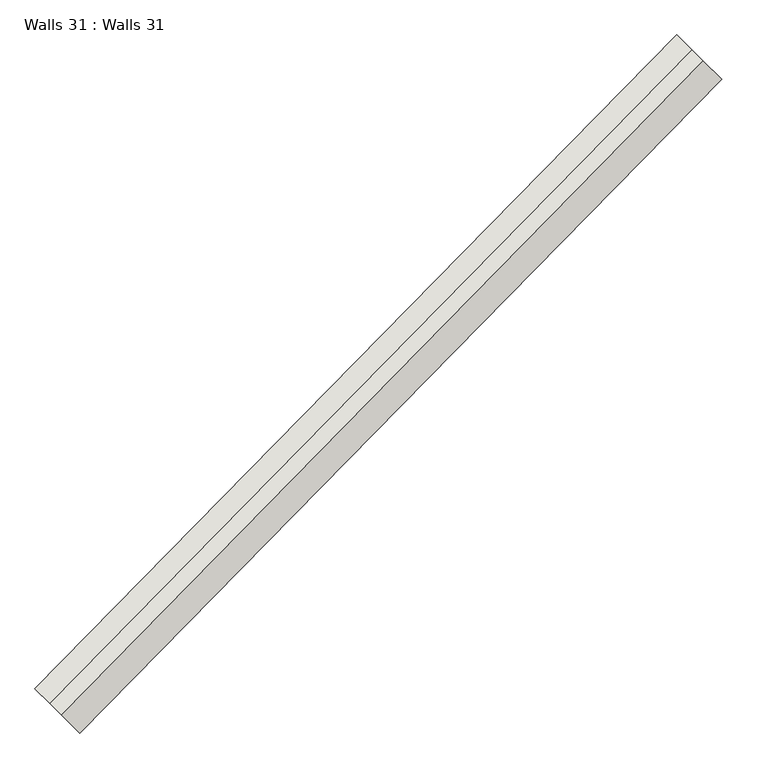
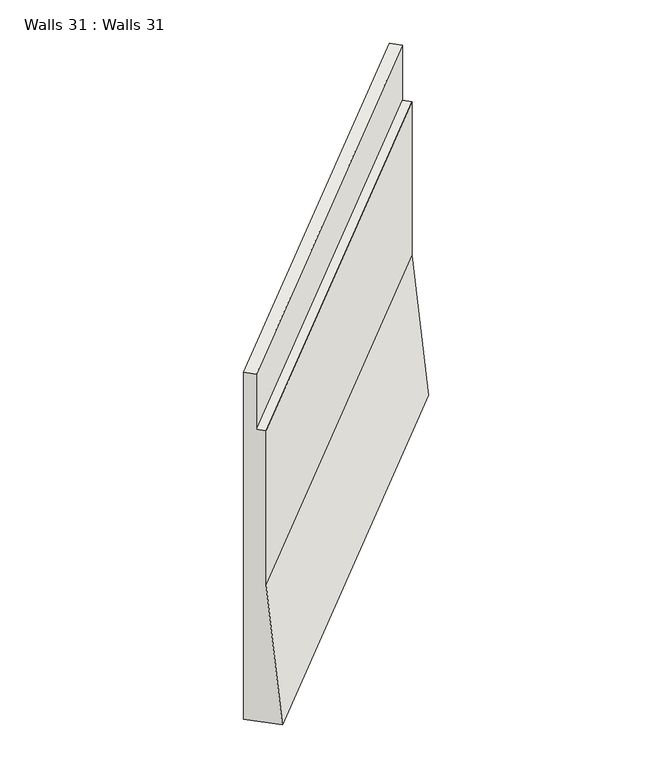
"""IFC4 building model written with IfcOpenShell, lengths in millimetres: wall geometry, Walls 31 : Walls 31."""

from ifc_helpers import new_model, si_unit, origin, place, context, project, spatial, faceted_brep, source, transform, mapped, element, save


def walls_31_walls_31_8f0194e7(model_context):
    return source(origin(), model_context, "Body", "Brep", [
        faceted_brep([(-203038.964254, -362245.4017887, 642170.0), (-203038.964254, -362245.4017887, 635870.0), (-202610.743774, -362665.6746998, 635870.0), (-202789.1702486, -362490.5597359, 638370.0), (-202789.1702486, -362490.5597359, 641170.0), (-202896.2248223, -362385.4920442, 641170.0), (-202896.2248223, -362385.4920442, 642170.0), (-196945.0248098, -356036.2229333, 642250.0), (-196802.2853782, -356176.3131889, 642250.0), (-196802.2853782, -356176.3131889, 641250.0), (-196695.2308044, -356281.3808805, 641250.0), (-196695.2308044, -356281.3808805, 638460.0), (-196516.8043299, -356456.4958445, 635960.0), (-196945.0248098, -356036.2229333, 635960.0)], [[[0, 1, 2, 3, 4, 5, 6]], [[7, 8, 9, 10, 11, 12, 13]], [[7, 13, 1, 0]], [[13, 12, 2, 1]], [[12, 11, 3, 2]], [[11, 10, 4, 3]], [[10, 9, 5, 4]], [[9, 8, 6, 5]], [[8, 7, 0, 6]]]),
    ])


if __name__ == "__main__":
    model = new_model("IFC4")
    model_context = context("Model", 3, world=origin())
    ifc_project = project(units=[si_unit("LENGTHUNIT", "METRE", prefix="MILLI")], contexts=[model_context])
    site = spatial("IfcSite", under=ifc_project)
    building = spatial("IfcBuilding", under=site)
    placement = place(None, origin())
    walls_31_walls_31_shape = walls_31_walls_31_8f0194e7(model_context)
    element("IfcWall", 1, ObjectType="Walls 31 : Walls 31", at=placement, inside=building, context=model_context, shape_type="MappedRepresentation", body=[
        mapped(walls_31_walls_31_shape, transform((0.0, 0.0, 0.0), x_axis=(1.0, 0.0, 0.0), y_axis=(0.0, 1.0, 0.0), z_axis=(0.0, 0.0, 1.0))),
    ])
    save(model, "model.ifc")
